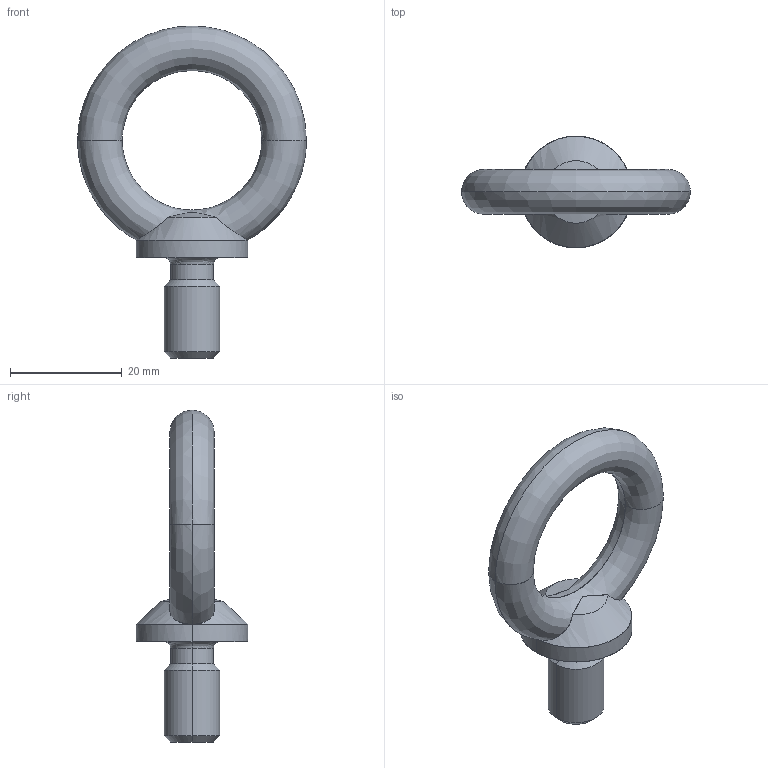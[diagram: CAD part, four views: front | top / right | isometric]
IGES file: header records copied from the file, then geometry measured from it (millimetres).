
Global section: file name: E:\UnigraphicsGraphicData\MISUMI_PRESS-PARTS\IGES\3d_chi10_03532_r00.igs; native system: NX V5.0; preprocessor: UGS NX IGES V5.0; author: MISUMI; date: 20110105.160218; units: millimetre
Bounding box: 41 x 20 x 59.49 mm (x, y, z)
Surface area: 3618.1 mm2 (no closed solid volume)
Topology: 0 solids, 0 shells, 22 faces, 128 edges, 128 vertices
Faces by surface type: bspline 22
